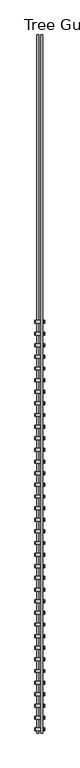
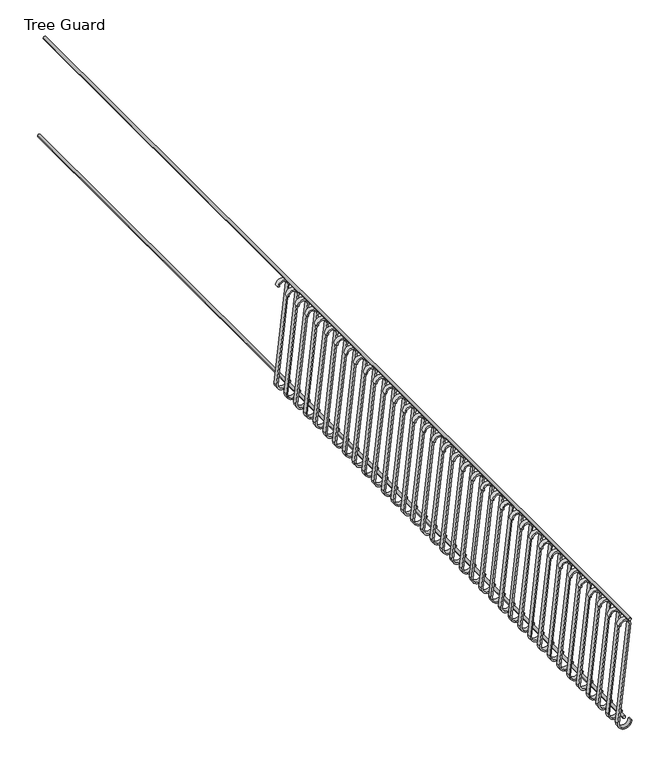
"""IFC4 building model written with IfcOpenShell, lengths in millimetres: railing geometry, Tree Guard."""

from ifc_helpers import new_model, si_unit, point, frame, frame_2d, origin, place, context, project, spatial, polyline, circle_curve, trimmed, segment, composite_curve, outline, extrude, source, transform, mapped, element, save


def tree_guard_ab088758(model_context):
    return source(origin(), model_context, "Body", "SweptSolid", [
        extrude(outline(composite_curve([segment(trimmed(circle_curve(frame_2d((1054.1, 9947.4129835)), 12.7), [point((1054.1, 9960.1129835))], [point((1054.1, 9934.7129835))], False, "CARTESIAN"), True, "CONTINUOUS"), segment(trimmed(circle_curve(frame_2d((1054.1, 9947.4129835)), 12.7), [point((1054.1, 9934.7129835))], [point((1054.1, 9960.1129835))], False, "CARTESIAN"), True, "CONTINUOUS")], self_intersect=False)), frame((0.0, -14489.4143828, 0.0), z_axis=(0.0, 1.0, 0.0), x_axis=(0.0, 0.0, 1.0)), (0.0, 0.0, 1.0), 9144.0),
        extrude(outline(composite_curve([segment(trimmed(circle_curve(frame_2d((139.7, 9896.6129835)), 12.7), [point((139.7, 9909.3129835))], [point((139.7, 9883.9129835))], False, "CARTESIAN"), True, "CONTINUOUS"), segment(trimmed(circle_curve(frame_2d((139.7, 9896.6129835)), 12.7), [point((139.7, 9883.9129835))], [point((139.7, 9909.3129835))], False, "CARTESIAN"), True, "CONTINUOUS")], self_intersect=False)), frame((0.0, -14489.4143828, 0.0), z_axis=(0.0, 1.0, 0.0), x_axis=(0.0, 0.0, 1.0)), (0.0, 0.0, 1.0), 9144.0),
        extrude(outline(composite_curve([segment(trimmed(circle_curve(frame_2d((990.6, 9922.0129835)), 38.1), [point((990.6, 9883.9129835))], [point((991.2441257, 9960.1075383))], True, "CARTESIAN"), True, "CONTINUOUS"), segment(polyline([(991.2441257, 9960.1075383), (64.2323509, 9858.5172068)]), True, "CONTINUOUS"), segment(trimmed(circle_curve(frame_2d((63.5, 9922.0129835)), 63.5), [point((64.2323509, 9858.5172068))], [point((63.5, 9985.5129835))], False, "CARTESIAN"), True, "CONTINUOUS"), segment(polyline([(63.5, 9985.5129835), (63.5, 9972.8129835)]), True, "CONTINUOUS"), segment(trimmed(circle_curve(frame_2d((63.5, 9922.0129835)), 50.8), [point((63.5, 9972.8129835))], [point((63.5, 9871.2129835))], True, "CARTESIAN"), True, "CONTINUOUS"), segment(polyline([(63.5, 9871.2129835), (990.6, 9972.8129835)]), True, "CONTINUOUS"), segment(trimmed(circle_curve(frame_2d((990.6, 9922.0129835)), 50.8), [point((990.6, 9972.8129835))], [point((990.6, 9871.2129835))], False, "CARTESIAN"), True, "CONTINUOUS"), segment(polyline([(990.6, 9871.2129835), (990.6, 9883.9129835)]), True, "CONTINUOUS")], self_intersect=False)), frame((0.0, -14457.6643828, 0.0), z_axis=(0.0, 1.0, 0.0), x_axis=(0.0, 0.0, 1.0)), (0.0, 0.0, 1.0), 38.1),
        extrude(outline(composite_curve([segment(trimmed(circle_curve(frame_2d((990.6, 9922.0129835)), 38.1), [point((990.6, 9883.9129835))], [point((991.2441257, 9960.1075383))], True, "CARTESIAN"), True, "CONTINUOUS"), segment(polyline([(991.2441257, 9960.1075383), (64.2323509, 9858.5172068)]), True, "CONTINUOUS"), segment(trimmed(circle_curve(frame_2d((63.5, 9922.0129835)), 63.5), [point((64.2323509, 9858.5172068))], [point((63.5, 9985.5129835))], False, "CARTESIAN"), True, "CONTINUOUS"), segment(polyline([(63.5, 9985.5129835), (63.5, 9972.8129835)]), True, "CONTINUOUS"), segment(trimmed(circle_curve(frame_2d((63.5, 9922.0129835)), 50.8), [point((63.5, 9972.8129835))], [point((63.5, 9871.2129835))], True, "CARTESIAN"), True, "CONTINUOUS"), segment(polyline([(63.5, 9871.2129835), (990.6, 9972.8129835)]), True, "CONTINUOUS"), segment(trimmed(circle_curve(frame_2d((990.6, 9922.0129835)), 50.8), [point((990.6, 9972.8129835))], [point((990.6, 9871.2129835))], False, "CARTESIAN"), True, "CONTINUOUS"), segment(polyline([(990.6, 9871.2129835), (990.6, 9883.9129835)]), True, "CONTINUOUS")], self_intersect=False)), frame((0.0, -14305.2643828, 0.0), z_axis=(0.0, 1.0, 0.0), x_axis=(0.0, 0.0, 1.0)), (0.0, 0.0, 1.0), 38.1),
        extrude(outline(composite_curve([segment(trimmed(circle_curve(frame_2d((990.6, 9922.0129835)), 38.1), [point((990.6, 9883.9129835))], [point((991.2441257, 9960.1075383))], True, "CARTESIAN"), True, "CONTINUOUS"), segment(polyline([(991.2441257, 9960.1075383), (64.2323509, 9858.5172068)]), True, "CONTINUOUS"), segment(trimmed(circle_curve(frame_2d((63.5, 9922.0129835)), 63.5), [point((64.2323509, 9858.5172068))], [point((63.5, 9985.5129835))], False, "CARTESIAN"), True, "CONTINUOUS"), segment(polyline([(63.5, 9985.5129835), (63.5, 9972.8129835)]), True, "CONTINUOUS"), segment(trimmed(circle_curve(frame_2d((63.5, 9922.0129835)), 50.8), [point((63.5, 9972.8129835))], [point((63.5, 9871.2129835))], True, "CARTESIAN"), True, "CONTINUOUS"), segment(polyline([(63.5, 9871.2129835), (990.6, 9972.8129835)]), True, "CONTINUOUS"), segment(trimmed(circle_curve(frame_2d((990.6, 9922.0129835)), 50.8), [point((990.6, 9972.8129835))], [point((990.6, 9871.2129835))], False, "CARTESIAN"), True, "CONTINUOUS"), segment(polyline([(990.6, 9871.2129835), (990.6, 9883.9129835)]), True, "CONTINUOUS")], self_intersect=False)), frame((0.0, -14152.8643828, 0.0), z_axis=(0.0, 1.0, 0.0), x_axis=(0.0, 0.0, 1.0)), (0.0, 0.0, 1.0), 38.1),
        extrude(outline(composite_curve([segment(trimmed(circle_curve(frame_2d((990.6, 9922.0129835)), 38.1), [point((990.6, 9883.9129835))], [point((991.2441257, 9960.1075383))], True, "CARTESIAN"), True, "CONTINUOUS"), segment(polyline([(991.2441257, 9960.1075383), (64.2323509, 9858.5172068)]), True, "CONTINUOUS"), segment(trimmed(circle_curve(frame_2d((63.5, 9922.0129835)), 63.5), [point((64.2323509, 9858.5172068))], [point((63.5, 9985.5129835))], False, "CARTESIAN"), True, "CONTINUOUS"), segment(polyline([(63.5, 9985.5129835), (63.5, 9972.8129835)]), True, "CONTINUOUS"), segment(trimmed(circle_curve(frame_2d((63.5, 9922.0129835)), 50.8), [point((63.5, 9972.8129835))], [point((63.5, 9871.2129835))], True, "CARTESIAN"), True, "CONTINUOUS"), segment(polyline([(63.5, 9871.2129835), (990.6, 9972.8129835)]), True, "CONTINUOUS"), segment(trimmed(circle_curve(frame_2d((990.6, 9922.0129835)), 50.8), [point((990.6, 9972.8129835))], [point((990.6, 9871.2129835))], False, "CARTESIAN"), True, "CONTINUOUS"), segment(polyline([(990.6, 9871.2129835), (990.6, 9883.9129835)]), True, "CONTINUOUS")], self_intersect=False)), frame((0.0, -14000.4643828, 0.0), z_axis=(0.0, 1.0, 0.0), x_axis=(0.0, 0.0, 1.0)), (0.0, 0.0, 1.0), 38.1),
        extrude(outline(composite_curve([segment(trimmed(circle_curve(frame_2d((990.6, 9922.0129835)), 38.1), [point((990.6, 9883.9129835))], [point((991.2441257, 9960.1075383))], True, "CARTESIAN"), True, "CONTINUOUS"), segment(polyline([(991.2441257, 9960.1075383), (64.2323509, 9858.5172068)]), True, "CONTINUOUS"), segment(trimmed(circle_curve(frame_2d((63.5, 9922.0129835)), 63.5), [point((64.2323509, 9858.5172068))], [point((63.5, 9985.5129835))], False, "CARTESIAN"), True, "CONTINUOUS"), segment(polyline([(63.5, 9985.5129835), (63.5, 9972.8129835)]), True, "CONTINUOUS"), segment(trimmed(circle_curve(frame_2d((63.5, 9922.0129835)), 50.8), [point((63.5, 9972.8129835))], [point((63.5, 9871.2129835))], True, "CARTESIAN"), True, "CONTINUOUS"), segment(polyline([(63.5, 9871.2129835), (990.6, 9972.8129835)]), True, "CONTINUOUS"), segment(trimmed(circle_curve(frame_2d((990.6, 9922.0129835)), 50.8), [point((990.6, 9972.8129835))], [point((990.6, 9871.2129835))], False, "CARTESIAN"), True, "CONTINUOUS"), segment(polyline([(990.6, 9871.2129835), (990.6, 9883.9129835)]), True, "CONTINUOUS")], self_intersect=False)), frame((0.0, -13848.0643828, 0.0), z_axis=(0.0, 1.0, 0.0), x_axis=(0.0, 0.0, 1.0)), (0.0, 0.0, 1.0), 38.1),
        extrude(outline(composite_curve([segment(trimmed(circle_curve(frame_2d((990.6, 9922.0129835)), 38.1), [point((990.6, 9883.9129835))], [point((991.2441257, 9960.1075383))], True, "CARTESIAN"), True, "CONTINUOUS"), segment(polyline([(991.2441257, 9960.1075383), (64.2323509, 9858.5172068)]), True, "CONTINUOUS"), segment(trimmed(circle_curve(frame_2d((63.5, 9922.0129835)), 63.5), [point((64.2323509, 9858.5172068))], [point((63.5, 9985.5129835))], False, "CARTESIAN"), True, "CONTINUOUS"), segment(polyline([(63.5, 9985.5129835), (63.5, 9972.8129835)]), True, "CONTINUOUS"), segment(trimmed(circle_curve(frame_2d((63.5, 9922.0129835)), 50.8), [point((63.5, 9972.8129835))], [point((63.5, 9871.2129835))], True, "CARTESIAN"), True, "CONTINUOUS"), segment(polyline([(63.5, 9871.2129835), (990.6, 9972.8129835)]), True, "CONTINUOUS"), segment(trimmed(circle_curve(frame_2d((990.6, 9922.0129835)), 50.8), [point((990.6, 9972.8129835))], [point((990.6, 9871.2129835))], False, "CARTESIAN"), True, "CONTINUOUS"), segment(polyline([(990.6, 9871.2129835), (990.6, 9883.9129835)]), True, "CONTINUOUS")], self_intersect=False)), frame((0.0, -13695.6643828, 0.0), z_axis=(0.0, 1.0, 0.0), x_axis=(0.0, 0.0, 1.0)), (0.0, 0.0, 1.0), 38.1),
        extrude(outline(composite_curve([segment(trimmed(circle_curve(frame_2d((990.6, 9922.0129835)), 38.1), [point((990.6, 9883.9129835))], [point((991.2441257, 9960.1075383))], True, "CARTESIAN"), True, "CONTINUOUS"), segment(polyline([(991.2441257, 9960.1075383), (64.2323509, 9858.5172068)]), True, "CONTINUOUS"), segment(trimmed(circle_curve(frame_2d((63.5, 9922.0129835)), 63.5), [point((64.2323509, 9858.5172068))], [point((63.5, 9985.5129835))], False, "CARTESIAN"), True, "CONTINUOUS"), segment(polyline([(63.5, 9985.5129835), (63.5, 9972.8129835)]), True, "CONTINUOUS"), segment(trimmed(circle_curve(frame_2d((63.5, 9922.0129835)), 50.8), [point((63.5, 9972.8129835))], [point((63.5, 9871.2129835))], True, "CARTESIAN"), True, "CONTINUOUS"), segment(polyline([(63.5, 9871.2129835), (990.6, 9972.8129835)]), True, "CONTINUOUS"), segment(trimmed(circle_curve(frame_2d((990.6, 9922.0129835)), 50.8), [point((990.6, 9972.8129835))], [point((990.6, 9871.2129835))], False, "CARTESIAN"), True, "CONTINUOUS"), segment(polyline([(990.6, 9871.2129835), (990.6, 9883.9129835)]), True, "CONTINUOUS")], self_intersect=False)), frame((0.0, -13543.2643828, 0.0), z_axis=(0.0, 1.0, 0.0), x_axis=(0.0, 0.0, 1.0)), (0.0, 0.0, 1.0), 38.1),
        extrude(outline(composite_curve([segment(trimmed(circle_curve(frame_2d((990.6, 9922.0129835)), 38.1), [point((990.6, 9883.9129835))], [point((991.2441257, 9960.1075383))], True, "CARTESIAN"), True, "CONTINUOUS"), segment(polyline([(991.2441257, 9960.1075383), (64.2323509, 9858.5172068)]), True, "CONTINUOUS"), segment(trimmed(circle_curve(frame_2d((63.5, 9922.0129835)), 63.5), [point((64.2323509, 9858.5172068))], [point((63.5, 9985.5129835))], False, "CARTESIAN"), True, "CONTINUOUS"), segment(polyline([(63.5, 9985.5129835), (63.5, 9972.8129835)]), True, "CONTINUOUS"), segment(trimmed(circle_curve(frame_2d((63.5, 9922.0129835)), 50.8), [point((63.5, 9972.8129835))], [point((63.5, 9871.2129835))], True, "CARTESIAN"), True, "CONTINUOUS"), segment(polyline([(63.5, 9871.2129835), (990.6, 9972.8129835)]), True, "CONTINUOUS"), segment(trimmed(circle_curve(frame_2d((990.6, 9922.0129835)), 50.8), [point((990.6, 9972.8129835))], [point((990.6, 9871.2129835))], False, "CARTESIAN"), True, "CONTINUOUS"), segment(polyline([(990.6, 9871.2129835), (990.6, 9883.9129835)]), True, "CONTINUOUS")], self_intersect=False)), frame((0.0, -13390.8643828, 0.0), z_axis=(0.0, 1.0, 0.0), x_axis=(0.0, 0.0, 1.0)), (0.0, 0.0, 1.0), 38.1),
        extrude(outline(composite_curve([segment(trimmed(circle_curve(frame_2d((990.6, 9922.0129835)), 38.1), [point((990.6, 9883.9129835))], [point((991.2441257, 9960.1075383))], True, "CARTESIAN"), True, "CONTINUOUS"), segment(polyline([(991.2441257, 9960.1075383), (64.2323509, 9858.5172068)]), True, "CONTINUOUS"), segment(trimmed(circle_curve(frame_2d((63.5, 9922.0129835)), 63.5), [point((64.2323509, 9858.5172068))], [point((63.5, 9985.5129835))], False, "CARTESIAN"), True, "CONTINUOUS"), segment(polyline([(63.5, 9985.5129835), (63.5, 9972.8129835)]), True, "CONTINUOUS"), segment(trimmed(circle_curve(frame_2d((63.5, 9922.0129835)), 50.8), [point((63.5, 9972.8129835))], [point((63.5, 9871.2129835))], True, "CARTESIAN"), True, "CONTINUOUS"), segment(polyline([(63.5, 9871.2129835), (990.6, 9972.8129835)]), True, "CONTINUOUS"), segment(trimmed(circle_curve(frame_2d((990.6, 9922.0129835)), 50.8), [point((990.6, 9972.8129835))], [point((990.6, 9871.2129835))], False, "CARTESIAN"), True, "CONTINUOUS"), segment(polyline([(990.6, 9871.2129835), (990.6, 9883.9129835)]), True, "CONTINUOUS")], self_intersect=False)), frame((0.0, -13238.4643828, 0.0), z_axis=(0.0, 1.0, 0.0), x_axis=(0.0, 0.0, 1.0)), (0.0, 0.0, 1.0), 38.1),
        extrude(outline(composite_curve([segment(trimmed(circle_curve(frame_2d((990.6, 9922.0129835)), 38.1), [point((990.6, 9883.9129835))], [point((991.2441257, 9960.1075383))], True, "CARTESIAN"), True, "CONTINUOUS"), segment(polyline([(991.2441257, 9960.1075383), (64.2323509, 9858.5172068)]), True, "CONTINUOUS"), segment(trimmed(circle_curve(frame_2d((63.5, 9922.0129835)), 63.5), [point((64.2323509, 9858.5172068))], [point((63.5, 9985.5129835))], False, "CARTESIAN"), True, "CONTINUOUS"), segment(polyline([(63.5, 9985.5129835), (63.5, 9972.8129835)]), True, "CONTINUOUS"), segment(trimmed(circle_curve(frame_2d((63.5, 9922.0129835)), 50.8), [point((63.5, 9972.8129835))], [point((63.5, 9871.2129835))], True, "CARTESIAN"), True, "CONTINUOUS"), segment(polyline([(63.5, 9871.2129835), (990.6, 9972.8129835)]), True, "CONTINUOUS"), segment(trimmed(circle_curve(frame_2d((990.6, 9922.0129835)), 50.8), [point((990.6, 9972.8129835))], [point((990.6, 9871.2129835))], False, "CARTESIAN"), True, "CONTINUOUS"), segment(polyline([(990.6, 9871.2129835), (990.6, 9883.9129835)]), True, "CONTINUOUS")], self_intersect=False)), frame((0.0, -13086.0643828, 0.0), z_axis=(0.0, 1.0, 0.0), x_axis=(0.0, 0.0, 1.0)), (0.0, 0.0, 1.0), 38.1),
        extrude(outline(composite_curve([segment(trimmed(circle_curve(frame_2d((990.6, 9922.0129835)), 38.1), [point((990.6, 9883.9129835))], [point((991.2441257, 9960.1075383))], True, "CARTESIAN"), True, "CONTINUOUS"), segment(polyline([(991.2441257, 9960.1075383), (64.2323509, 9858.5172068)]), True, "CONTINUOUS"), segment(trimmed(circle_curve(frame_2d((63.5, 9922.0129835)), 63.5), [point((64.2323509, 9858.5172068))], [point((63.5, 9985.5129835))], False, "CARTESIAN"), True, "CONTINUOUS"), segment(polyline([(63.5, 9985.5129835), (63.5, 9972.8129835)]), True, "CONTINUOUS"), segment(trimmed(circle_curve(frame_2d((63.5, 9922.0129835)), 50.8), [point((63.5, 9972.8129835))], [point((63.5, 9871.2129835))], True, "CARTESIAN"), True, "CONTINUOUS"), segment(polyline([(63.5, 9871.2129835), (990.6, 9972.8129835)]), True, "CONTINUOUS"), segment(trimmed(circle_curve(frame_2d((990.6, 9922.0129835)), 50.8), [point((990.6, 9972.8129835))], [point((990.6, 9871.2129835))], False, "CARTESIAN"), True, "CONTINUOUS"), segment(polyline([(990.6, 9871.2129835), (990.6, 9883.9129835)]), True, "CONTINUOUS")], self_intersect=False)), frame((0.0, -12933.6643828, 0.0), z_axis=(0.0, 1.0, 0.0), x_axis=(0.0, 0.0, 1.0)), (0.0, 0.0, 1.0), 38.1),
        extrude(outline(composite_curve([segment(trimmed(circle_curve(frame_2d((990.6, 9922.0129835)), 38.1), [point((990.6, 9883.9129835))], [point((991.2441257, 9960.1075383))], True, "CARTESIAN"), True, "CONTINUOUS"), segment(polyline([(991.2441257, 9960.1075383), (64.2323509, 9858.5172068)]), True, "CONTINUOUS"), segment(trimmed(circle_curve(frame_2d((63.5, 9922.0129835)), 63.5), [point((64.2323509, 9858.5172068))], [point((63.5, 9985.5129835))], False, "CARTESIAN"), True, "CONTINUOUS"), segment(polyline([(63.5, 9985.5129835), (63.5, 9972.8129835)]), True, "CONTINUOUS"), segment(trimmed(circle_curve(frame_2d((63.5, 9922.0129835)), 50.8), [point((63.5, 9972.8129835))], [point((63.5, 9871.2129835))], True, "CARTESIAN"), True, "CONTINUOUS"), segment(polyline([(63.5, 9871.2129835), (990.6, 9972.8129835)]), True, "CONTINUOUS"), segment(trimmed(circle_curve(frame_2d((990.6, 9922.0129835)), 50.8), [point((990.6, 9972.8129835))], [point((990.6, 9871.2129835))], False, "CARTESIAN"), True, "CONTINUOUS"), segment(polyline([(990.6, 9871.2129835), (990.6, 9883.9129835)]), True, "CONTINUOUS")], self_intersect=False)), frame((0.0, -12781.2643828, 0.0), z_axis=(0.0, 1.0, 0.0), x_axis=(0.0, 0.0, 1.0)), (0.0, 0.0, 1.0), 38.1),
        extrude(outline(composite_curve([segment(trimmed(circle_curve(frame_2d((990.6, 9922.0129835)), 38.1), [point((990.6, 9883.9129835))], [point((991.2441257, 9960.1075383))], True, "CARTESIAN"), True, "CONTINUOUS"), segment(polyline([(991.2441257, 9960.1075383), (64.2323509, 9858.5172068)]), True, "CONTINUOUS"), segment(trimmed(circle_curve(frame_2d((63.5, 9922.0129835)), 63.5), [point((64.2323509, 9858.5172068))], [point((63.5, 9985.5129835))], False, "CARTESIAN"), True, "CONTINUOUS"), segment(polyline([(63.5, 9985.5129835), (63.5, 9972.8129835)]), True, "CONTINUOUS"), segment(trimmed(circle_curve(frame_2d((63.5, 9922.0129835)), 50.8), [point((63.5, 9972.8129835))], [point((63.5, 9871.2129835))], True, "CARTESIAN"), True, "CONTINUOUS"), segment(polyline([(63.5, 9871.2129835), (990.6, 9972.8129835)]), True, "CONTINUOUS"), segment(trimmed(circle_curve(frame_2d((990.6, 9922.0129835)), 50.8), [point((990.6, 9972.8129835))], [point((990.6, 9871.2129835))], False, "CARTESIAN"), True, "CONTINUOUS"), segment(polyline([(990.6, 9871.2129835), (990.6, 9883.9129835)]), True, "CONTINUOUS")], self_intersect=False)), frame((0.0, -12628.8643828, 0.0), z_axis=(0.0, 1.0, 0.0), x_axis=(0.0, 0.0, 1.0)), (0.0, 0.0, 1.0), 38.1),
        extrude(outline(composite_curve([segment(trimmed(circle_curve(frame_2d((990.6, 9922.0129835)), 38.1), [point((990.6, 9883.9129835))], [point((991.2441257, 9960.1075383))], True, "CARTESIAN"), True, "CONTINUOUS"), segment(polyline([(991.2441257, 9960.1075383), (64.2323509, 9858.5172068)]), True, "CONTINUOUS"), segment(trimmed(circle_curve(frame_2d((63.5, 9922.0129835)), 63.5), [point((64.2323509, 9858.5172068))], [point((63.5, 9985.5129835))], False, "CARTESIAN"), True, "CONTINUOUS"), segment(polyline([(63.5, 9985.5129835), (63.5, 9972.8129835)]), True, "CONTINUOUS"), segment(trimmed(circle_curve(frame_2d((63.5, 9922.0129835)), 50.8), [point((63.5, 9972.8129835))], [point((63.5, 9871.2129835))], True, "CARTESIAN"), True, "CONTINUOUS"), segment(polyline([(63.5, 9871.2129835), (990.6, 9972.8129835)]), True, "CONTINUOUS"), segment(trimmed(circle_curve(frame_2d((990.6, 9922.0129835)), 50.8), [point((990.6, 9972.8129835))], [point((990.6, 9871.2129835))], False, "CARTESIAN"), True, "CONTINUOUS"), segment(polyline([(990.6, 9871.2129835), (990.6, 9883.9129835)]), True, "CONTINUOUS")], self_intersect=False)), frame((0.0, -12476.4643828, 0.0), z_axis=(0.0, 1.0, 0.0), x_axis=(0.0, 0.0, 1.0)), (0.0, 0.0, 1.0), 38.1),
        extrude(outline(composite_curve([segment(trimmed(circle_curve(frame_2d((990.6, 9922.0129835)), 38.1), [point((990.6, 9883.9129835))], [point((991.2441257, 9960.1075383))], True, "CARTESIAN"), True, "CONTINUOUS"), segment(polyline([(991.2441257, 9960.1075383), (64.2323509, 9858.5172068)]), True, "CONTINUOUS"), segment(trimmed(circle_curve(frame_2d((63.5, 9922.0129835)), 63.5), [point((64.2323509, 9858.5172068))], [point((63.5, 9985.5129835))], False, "CARTESIAN"), True, "CONTINUOUS"), segment(polyline([(63.5, 9985.5129835), (63.5, 9972.8129835)]), True, "CONTINUOUS"), segment(trimmed(circle_curve(frame_2d((63.5, 9922.0129835)), 50.8), [point((63.5, 9972.8129835))], [point((63.5, 9871.2129835))], True, "CARTESIAN"), True, "CONTINUOUS"), segment(polyline([(63.5, 9871.2129835), (990.6, 9972.8129835)]), True, "CONTINUOUS"), segment(trimmed(circle_curve(frame_2d((990.6, 9922.0129835)), 50.8), [point((990.6, 9972.8129835))], [point((990.6, 9871.2129835))], False, "CARTESIAN"), True, "CONTINUOUS"), segment(polyline([(990.6, 9871.2129835), (990.6, 9883.9129835)]), True, "CONTINUOUS")], self_intersect=False)), frame((0.0, -12324.0643828, 0.0), z_axis=(0.0, 1.0, 0.0), x_axis=(0.0, 0.0, 1.0)), (0.0, 0.0, 1.0), 38.1),
        extrude(outline(composite_curve([segment(trimmed(circle_curve(frame_2d((990.6, 9922.0129835)), 38.1), [point((990.6, 9883.9129835))], [point((991.2441257, 9960.1075383))], True, "CARTESIAN"), True, "CONTINUOUS"), segment(polyline([(991.2441257, 9960.1075383), (64.2323509, 9858.5172068)]), True, "CONTINUOUS"), segment(trimmed(circle_curve(frame_2d((63.5, 9922.0129835)), 63.5), [point((64.2323509, 9858.5172068))], [point((63.5, 9985.5129835))], False, "CARTESIAN"), True, "CONTINUOUS"), segment(polyline([(63.5, 9985.5129835), (63.5, 9972.8129835)]), True, "CONTINUOUS"), segment(trimmed(circle_curve(frame_2d((63.5, 9922.0129835)), 50.8), [point((63.5, 9972.8129835))], [point((63.5, 9871.2129835))], True, "CARTESIAN"), True, "CONTINUOUS"), segment(polyline([(63.5, 9871.2129835), (990.6, 9972.8129835)]), True, "CONTINUOUS"), segment(trimmed(circle_curve(frame_2d((990.6, 9922.0129835)), 50.8), [point((990.6, 9972.8129835))], [point((990.6, 9871.2129835))], False, "CARTESIAN"), True, "CONTINUOUS"), segment(polyline([(990.6, 9871.2129835), (990.6, 9883.9129835)]), True, "CONTINUOUS")], self_intersect=False)), frame((0.0, -12171.6643828, 0.0), z_axis=(0.0, 1.0, 0.0), x_axis=(0.0, 0.0, 1.0)), (0.0, 0.0, 1.0), 38.1),
        extrude(outline(composite_curve([segment(trimmed(circle_curve(frame_2d((990.6, 9922.0129835)), 38.1), [point((990.6, 9883.9129835))], [point((991.2441257, 9960.1075383))], True, "CARTESIAN"), True, "CONTINUOUS"), segment(polyline([(991.2441257, 9960.1075383), (64.2323509, 9858.5172068)]), True, "CONTINUOUS"), segment(trimmed(circle_curve(frame_2d((63.5, 9922.0129835)), 63.5), [point((64.2323509, 9858.5172068))], [point((63.5, 9985.5129835))], False, "CARTESIAN"), True, "CONTINUOUS"), segment(polyline([(63.5, 9985.5129835), (63.5, 9972.8129835)]), True, "CONTINUOUS"), segment(trimmed(circle_curve(frame_2d((63.5, 9922.0129835)), 50.8), [point((63.5, 9972.8129835))], [point((63.5, 9871.2129835))], True, "CARTESIAN"), True, "CONTINUOUS"), segment(polyline([(63.5, 9871.2129835), (990.6, 9972.8129835)]), True, "CONTINUOUS"), segment(trimmed(circle_curve(frame_2d((990.6, 9922.0129835)), 50.8), [point((990.6, 9972.8129835))], [point((990.6, 9871.2129835))], False, "CARTESIAN"), True, "CONTINUOUS"), segment(polyline([(990.6, 9871.2129835), (990.6, 9883.9129835)]), True, "CONTINUOUS")], self_intersect=False)), frame((0.0, -12019.2643828, 0.0), z_axis=(0.0, 1.0, 0.0), x_axis=(0.0, 0.0, 1.0)), (0.0, 0.0, 1.0), 38.1),
        extrude(outline(composite_curve([segment(trimmed(circle_curve(frame_2d((990.6, 9922.0129835)), 38.1), [point((990.6, 9883.9129835))], [point((991.2441257, 9960.1075383))], True, "CARTESIAN"), True, "CONTINUOUS"), segment(polyline([(991.2441257, 9960.1075383), (64.2323509, 9858.5172068)]), True, "CONTINUOUS"), segment(trimmed(circle_curve(frame_2d((63.5, 9922.0129835)), 63.5), [point((64.2323509, 9858.5172068))], [point((63.5, 9985.5129835))], False, "CARTESIAN"), True, "CONTINUOUS"), segment(polyline([(63.5, 9985.5129835), (63.5, 9972.8129835)]), True, "CONTINUOUS"), segment(trimmed(circle_curve(frame_2d((63.5, 9922.0129835)), 50.8), [point((63.5, 9972.8129835))], [point((63.5, 9871.2129835))], True, "CARTESIAN"), True, "CONTINUOUS"), segment(polyline([(63.5, 9871.2129835), (990.6, 9972.8129835)]), True, "CONTINUOUS"), segment(trimmed(circle_curve(frame_2d((990.6, 9922.0129835)), 50.8), [point((990.6, 9972.8129835))], [point((990.6, 9871.2129835))], False, "CARTESIAN"), True, "CONTINUOUS"), segment(polyline([(990.6, 9871.2129835), (990.6, 9883.9129835)]), True, "CONTINUOUS")], self_intersect=False)), frame((0.0, -11866.8643828, 0.0), z_axis=(0.0, 1.0, 0.0), x_axis=(0.0, 0.0, 1.0)), (0.0, 0.0, 1.0), 38.1),
        extrude(outline(composite_curve([segment(trimmed(circle_curve(frame_2d((990.6, 9922.0129835)), 38.1), [point((990.6, 9883.9129835))], [point((991.2441257, 9960.1075383))], True, "CARTESIAN"), True, "CONTINUOUS"), segment(polyline([(991.2441257, 9960.1075383), (64.2323509, 9858.5172068)]), True, "CONTINUOUS"), segment(trimmed(circle_curve(frame_2d((63.5, 9922.0129835)), 63.5), [point((64.2323509, 9858.5172068))], [point((63.5, 9985.5129835))], False, "CARTESIAN"), True, "CONTINUOUS"), segment(polyline([(63.5, 9985.5129835), (63.5, 9972.8129835)]), True, "CONTINUOUS"), segment(trimmed(circle_curve(frame_2d((63.5, 9922.0129835)), 50.8), [point((63.5, 9972.8129835))], [point((63.5, 9871.2129835))], True, "CARTESIAN"), True, "CONTINUOUS"), segment(polyline([(63.5, 9871.2129835), (990.6, 9972.8129835)]), True, "CONTINUOUS"), segment(trimmed(circle_curve(frame_2d((990.6, 9922.0129835)), 50.8), [point((990.6, 9972.8129835))], [point((990.6, 9871.2129835))], False, "CARTESIAN"), True, "CONTINUOUS"), segment(polyline([(990.6, 9871.2129835), (990.6, 9883.9129835)]), True, "CONTINUOUS")], self_intersect=False)), frame((0.0, -11714.4643828, 0.0), z_axis=(0.0, 1.0, 0.0), x_axis=(0.0, 0.0, 1.0)), (0.0, 0.0, 1.0), 38.1),
        extrude(outline(composite_curve([segment(trimmed(circle_curve(frame_2d((990.6, 9922.0129835)), 38.1), [point((990.6, 9883.9129835))], [point((991.2441257, 9960.1075383))], True, "CARTESIAN"), True, "CONTINUOUS"), segment(polyline([(991.2441257, 9960.1075383), (64.2323509, 9858.5172068)]), True, "CONTINUOUS"), segment(trimmed(circle_curve(frame_2d((63.5, 9922.0129835)), 63.5), [point((64.2323509, 9858.5172068))], [point((63.5, 9985.5129835))], False, "CARTESIAN"), True, "CONTINUOUS"), segment(polyline([(63.5, 9985.5129835), (63.5, 9972.8129835)]), True, "CONTINUOUS"), segment(trimmed(circle_curve(frame_2d((63.5, 9922.0129835)), 50.8), [point((63.5, 9972.8129835))], [point((63.5, 9871.2129835))], True, "CARTESIAN"), True, "CONTINUOUS"), segment(polyline([(63.5, 9871.2129835), (990.6, 9972.8129835)]), True, "CONTINUOUS"), segment(trimmed(circle_curve(frame_2d((990.6, 9922.0129835)), 50.8), [point((990.6, 9972.8129835))], [point((990.6, 9871.2129835))], False, "CARTESIAN"), True, "CONTINUOUS"), segment(polyline([(990.6, 9871.2129835), (990.6, 9883.9129835)]), True, "CONTINUOUS")], self_intersect=False)), frame((0.0, -11562.0643828, 0.0), z_axis=(0.0, 1.0, 0.0), x_axis=(0.0, 0.0, 1.0)), (0.0, 0.0, 1.0), 38.1),
        extrude(outline(composite_curve([segment(trimmed(circle_curve(frame_2d((990.6, 9922.0129835)), 38.1), [point((990.6, 9883.9129835))], [point((991.2441257, 9960.1075383))], True, "CARTESIAN"), True, "CONTINUOUS"), segment(polyline([(991.2441257, 9960.1075383), (64.2323509, 9858.5172068)]), True, "CONTINUOUS"), segment(trimmed(circle_curve(frame_2d((63.5, 9922.0129835)), 63.5), [point((64.2323509, 9858.5172068))], [point((63.5, 9985.5129835))], False, "CARTESIAN"), True, "CONTINUOUS"), segment(polyline([(63.5, 9985.5129835), (63.5, 9972.8129835)]), True, "CONTINUOUS"), segment(trimmed(circle_curve(frame_2d((63.5, 9922.0129835)), 50.8), [point((63.5, 9972.8129835))], [point((63.5, 9871.2129835))], True, "CARTESIAN"), True, "CONTINUOUS"), segment(polyline([(63.5, 9871.2129835), (990.6, 9972.8129835)]), True, "CONTINUOUS"), segment(trimmed(circle_curve(frame_2d((990.6, 9922.0129835)), 50.8), [point((990.6, 9972.8129835))], [point((990.6, 9871.2129835))], False, "CARTESIAN"), True, "CONTINUOUS"), segment(polyline([(990.6, 9871.2129835), (990.6, 9883.9129835)]), True, "CONTINUOUS")], self_intersect=False)), frame((0.0, -11409.6643828, 0.0), z_axis=(0.0, 1.0, 0.0), x_axis=(0.0, 0.0, 1.0)), (0.0, 0.0, 1.0), 38.1),
        extrude(outline(composite_curve([segment(trimmed(circle_curve(frame_2d((990.6, 9922.0129835)), 38.1), [point((990.6, 9883.9129835))], [point((991.2441257, 9960.1075383))], True, "CARTESIAN"), True, "CONTINUOUS"), segment(polyline([(991.2441257, 9960.1075383), (64.2323509, 9858.5172068)]), True, "CONTINUOUS"), segment(trimmed(circle_curve(frame_2d((63.5, 9922.0129835)), 63.5), [point((64.2323509, 9858.5172068))], [point((63.5, 9985.5129835))], False, "CARTESIAN"), True, "CONTINUOUS"), segment(polyline([(63.5, 9985.5129835), (63.5, 9972.8129835)]), True, "CONTINUOUS"), segment(trimmed(circle_curve(frame_2d((63.5, 9922.0129835)), 50.8), [point((63.5, 9972.8129835))], [point((63.5, 9871.2129835))], True, "CARTESIAN"), True, "CONTINUOUS"), segment(polyline([(63.5, 9871.2129835), (990.6, 9972.8129835)]), True, "CONTINUOUS"), segment(trimmed(circle_curve(frame_2d((990.6, 9922.0129835)), 50.8), [point((990.6, 9972.8129835))], [point((990.6, 9871.2129835))], False, "CARTESIAN"), True, "CONTINUOUS"), segment(polyline([(990.6, 9871.2129835), (990.6, 9883.9129835)]), True, "CONTINUOUS")], self_intersect=False)), frame((0.0, -11257.2643828, 0.0), z_axis=(0.0, 1.0, 0.0), x_axis=(0.0, 0.0, 1.0)), (0.0, 0.0, 1.0), 38.1),
        extrude(outline(composite_curve([segment(trimmed(circle_curve(frame_2d((990.6, 9922.0129835)), 38.1), [point((990.6, 9883.9129835))], [point((991.2441257, 9960.1075383))], True, "CARTESIAN"), True, "CONTINUOUS"), segment(polyline([(991.2441257, 9960.1075383), (64.2323509, 9858.5172068)]), True, "CONTINUOUS"), segment(trimmed(circle_curve(frame_2d((63.5, 9922.0129835)), 63.5), [point((64.2323509, 9858.5172068))], [point((63.5, 9985.5129835))], False, "CARTESIAN"), True, "CONTINUOUS"), segment(polyline([(63.5, 9985.5129835), (63.5, 9972.8129835)]), True, "CONTINUOUS"), segment(trimmed(circle_curve(frame_2d((63.5, 9922.0129835)), 50.8), [point((63.5, 9972.8129835))], [point((63.5, 9871.2129835))], True, "CARTESIAN"), True, "CONTINUOUS"), segment(polyline([(63.5, 9871.2129835), (990.6, 9972.8129835)]), True, "CONTINUOUS"), segment(trimmed(circle_curve(frame_2d((990.6, 9922.0129835)), 50.8), [point((990.6, 9972.8129835))], [point((990.6, 9871.2129835))], False, "CARTESIAN"), True, "CONTINUOUS"), segment(polyline([(990.6, 9871.2129835), (990.6, 9883.9129835)]), True, "CONTINUOUS")], self_intersect=False)), frame((0.0, -11104.8643828, 0.0), z_axis=(0.0, 1.0, 0.0), x_axis=(0.0, 0.0, 1.0)), (0.0, 0.0, 1.0), 38.1),
        extrude(outline(composite_curve([segment(trimmed(circle_curve(frame_2d((990.6, 9922.0129835)), 38.1), [point((990.6, 9883.9129835))], [point((991.2441257, 9960.1075383))], True, "CARTESIAN"), True, "CONTINUOUS"), segment(polyline([(991.2441257, 9960.1075383), (64.2323509, 9858.5172068)]), True, "CONTINUOUS"), segment(trimmed(circle_curve(frame_2d((63.5, 9922.0129835)), 63.5), [point((64.2323509, 9858.5172068))], [point((63.5, 9985.5129835))], False, "CARTESIAN"), True, "CONTINUOUS"), segment(polyline([(63.5, 9985.5129835), (63.5, 9972.8129835)]), True, "CONTINUOUS"), segment(trimmed(circle_curve(frame_2d((63.5, 9922.0129835)), 50.8), [point((63.5, 9972.8129835))], [point((63.5, 9871.2129835))], True, "CARTESIAN"), True, "CONTINUOUS"), segment(polyline([(63.5, 9871.2129835), (990.6, 9972.8129835)]), True, "CONTINUOUS"), segment(trimmed(circle_curve(frame_2d((990.6, 9922.0129835)), 50.8), [point((990.6, 9972.8129835))], [point((990.6, 9871.2129835))], False, "CARTESIAN"), True, "CONTINUOUS"), segment(polyline([(990.6, 9871.2129835), (990.6, 9883.9129835)]), True, "CONTINUOUS")], self_intersect=False)), frame((0.0, -10952.4643828, 0.0), z_axis=(0.0, 1.0, 0.0), x_axis=(0.0, 0.0, 1.0)), (0.0, 0.0, 1.0), 38.1),
        extrude(outline(composite_curve([segment(trimmed(circle_curve(frame_2d((990.6, 9922.0129835)), 38.1), [point((990.6, 9883.9129835))], [point((991.2441257, 9960.1075383))], True, "CARTESIAN"), True, "CONTINUOUS"), segment(polyline([(991.2441257, 9960.1075383), (64.2323509, 9858.5172068)]), True, "CONTINUOUS"), segment(trimmed(circle_curve(frame_2d((63.5, 9922.0129835)), 63.5), [point((64.2323509, 9858.5172068))], [point((63.5, 9985.5129835))], False, "CARTESIAN"), True, "CONTINUOUS"), segment(polyline([(63.5, 9985.5129835), (63.5, 9972.8129835)]), True, "CONTINUOUS"), segment(trimmed(circle_curve(frame_2d((63.5, 9922.0129835)), 50.8), [point((63.5, 9972.8129835))], [point((63.5, 9871.2129835))], True, "CARTESIAN"), True, "CONTINUOUS"), segment(polyline([(63.5, 9871.2129835), (990.6, 9972.8129835)]), True, "CONTINUOUS"), segment(trimmed(circle_curve(frame_2d((990.6, 9922.0129835)), 50.8), [point((990.6, 9972.8129835))], [point((990.6, 9871.2129835))], False, "CARTESIAN"), True, "CONTINUOUS"), segment(polyline([(990.6, 9871.2129835), (990.6, 9883.9129835)]), True, "CONTINUOUS")], self_intersect=False)), frame((0.0, -10800.0643828, 0.0), z_axis=(0.0, 1.0, 0.0), x_axis=(0.0, 0.0, 1.0)), (0.0, 0.0, 1.0), 38.1),
        extrude(outline(composite_curve([segment(trimmed(circle_curve(frame_2d((990.6, 9922.0129835)), 38.1), [point((990.6, 9883.9129835))], [point((991.2441257, 9960.1075383))], True, "CARTESIAN"), True, "CONTINUOUS"), segment(polyline([(991.2441257, 9960.1075383), (64.2323509, 9858.5172068)]), True, "CONTINUOUS"), segment(trimmed(circle_curve(frame_2d((63.5, 9922.0129835)), 63.5), [point((64.2323509, 9858.5172068))], [point((63.5, 9985.5129835))], False, "CARTESIAN"), True, "CONTINUOUS"), segment(polyline([(63.5, 9985.5129835), (63.5, 9972.8129835)]), True, "CONTINUOUS"), segment(trimmed(circle_curve(frame_2d((63.5, 9922.0129835)), 50.8), [point((63.5, 9972.8129835))], [point((63.5, 9871.2129835))], True, "CARTESIAN"), True, "CONTINUOUS"), segment(polyline([(63.5, 9871.2129835), (990.6, 9972.8129835)]), True, "CONTINUOUS"), segment(trimmed(circle_curve(frame_2d((990.6, 9922.0129835)), 50.8), [point((990.6, 9972.8129835))], [point((990.6, 9871.2129835))], False, "CARTESIAN"), True, "CONTINUOUS"), segment(polyline([(990.6, 9871.2129835), (990.6, 9883.9129835)]), True, "CONTINUOUS")], self_intersect=False)), frame((0.0, -10647.6643828, 0.0), z_axis=(0.0, 1.0, 0.0), x_axis=(0.0, 0.0, 1.0)), (0.0, 0.0, 1.0), 38.1),
        extrude(outline(composite_curve([segment(trimmed(circle_curve(frame_2d((990.6, 9922.0129835)), 38.1), [point((990.6, 9883.9129835))], [point((991.2441257, 9960.1075383))], True, "CARTESIAN"), True, "CONTINUOUS"), segment(polyline([(991.2441257, 9960.1075383), (64.2323509, 9858.5172068)]), True, "CONTINUOUS"), segment(trimmed(circle_curve(frame_2d((63.5, 9922.0129835)), 63.5), [point((64.2323509, 9858.5172068))], [point((63.5, 9985.5129835))], False, "CARTESIAN"), True, "CONTINUOUS"), segment(polyline([(63.5, 9985.5129835), (63.5, 9972.8129835)]), True, "CONTINUOUS"), segment(trimmed(circle_curve(frame_2d((63.5, 9922.0129835)), 50.8), [point((63.5, 9972.8129835))], [point((63.5, 9871.2129835))], True, "CARTESIAN"), True, "CONTINUOUS"), segment(polyline([(63.5, 9871.2129835), (990.6, 9972.8129835)]), True, "CONTINUOUS"), segment(trimmed(circle_curve(frame_2d((990.6, 9922.0129835)), 50.8), [point((990.6, 9972.8129835))], [point((990.6, 9871.2129835))], False, "CARTESIAN"), True, "CONTINUOUS"), segment(polyline([(990.6, 9871.2129835), (990.6, 9883.9129835)]), True, "CONTINUOUS")], self_intersect=False)), frame((0.0, -10495.2643828, 0.0), z_axis=(0.0, 1.0, 0.0), x_axis=(0.0, 0.0, 1.0)), (0.0, 0.0, 1.0), 38.1),
        extrude(outline(composite_curve([segment(trimmed(circle_curve(frame_2d((990.6, 9922.0129835)), 38.1), [point((990.6, 9883.9129835))], [point((991.2441257, 9960.1075383))], True, "CARTESIAN"), True, "CONTINUOUS"), segment(polyline([(991.2441257, 9960.1075383), (64.2323509, 9858.5172068)]), True, "CONTINUOUS"), segment(trimmed(circle_curve(frame_2d((63.5, 9922.0129835)), 63.5), [point((64.2323509, 9858.5172068))], [point((63.5, 9985.5129835))], False, "CARTESIAN"), True, "CONTINUOUS"), segment(polyline([(63.5, 9985.5129835), (63.5, 9972.8129835)]), True, "CONTINUOUS"), segment(trimmed(circle_curve(frame_2d((63.5, 9922.0129835)), 50.8), [point((63.5, 9972.8129835))], [point((63.5, 9871.2129835))], True, "CARTESIAN"), True, "CONTINUOUS"), segment(polyline([(63.5, 9871.2129835), (990.6, 9972.8129835)]), True, "CONTINUOUS"), segment(trimmed(circle_curve(frame_2d((990.6, 9922.0129835)), 50.8), [point((990.6, 9972.8129835))], [point((990.6, 9871.2129835))], False, "CARTESIAN"), True, "CONTINUOUS"), segment(polyline([(990.6, 9871.2129835), (990.6, 9883.9129835)]), True, "CONTINUOUS")], self_intersect=False)), frame((0.0, -10342.8643828, 0.0), z_axis=(0.0, 1.0, 0.0), x_axis=(0.0, 0.0, 1.0)), (0.0, 0.0, 1.0), 38.1),
        extrude(outline(composite_curve([segment(trimmed(circle_curve(frame_2d((990.6, 9922.0129835)), 38.1), [point((990.6, 9883.9129835))], [point((991.2441257, 9960.1075383))], True, "CARTESIAN"), True, "CONTINUOUS"), segment(polyline([(991.2441257, 9960.1075383), (64.2323509, 9858.5172068)]), True, "CONTINUOUS"), segment(trimmed(circle_curve(frame_2d((63.5, 9922.0129835)), 63.5), [point((64.2323509, 9858.5172068))], [point((63.5, 9985.5129835))], False, "CARTESIAN"), True, "CONTINUOUS"), segment(polyline([(63.5, 9985.5129835), (63.5, 9972.8129835)]), True, "CONTINUOUS"), segment(trimmed(circle_curve(frame_2d((63.5, 9922.0129835)), 50.8), [point((63.5, 9972.8129835))], [point((63.5, 9871.2129835))], True, "CARTESIAN"), True, "CONTINUOUS"), segment(polyline([(63.5, 9871.2129835), (990.6, 9972.8129835)]), True, "CONTINUOUS"), segment(trimmed(circle_curve(frame_2d((990.6, 9922.0129835)), 50.8), [point((990.6, 9972.8129835))], [point((990.6, 9871.2129835))], False, "CARTESIAN"), True, "CONTINUOUS"), segment(polyline([(990.6, 9871.2129835), (990.6, 9883.9129835)]), True, "CONTINUOUS")], self_intersect=False)), frame((0.0, -10190.4643828, 0.0), z_axis=(0.0, 1.0, 0.0), x_axis=(0.0, 0.0, 1.0)), (0.0, 0.0, 1.0), 38.1),
        extrude(outline(composite_curve([segment(trimmed(circle_curve(frame_2d((990.6, 9922.0129835)), 38.1), [point((990.6, 9883.9129835))], [point((991.2441257, 9960.1075383))], True, "CARTESIAN"), True, "CONTINUOUS"), segment(polyline([(991.2441257, 9960.1075383), (64.2323509, 9858.5172068)]), True, "CONTINUOUS"), segment(trimmed(circle_curve(frame_2d((63.5, 9922.0129835)), 63.5), [point((64.2323509, 9858.5172068))], [point((63.5, 9985.5129835))], False, "CARTESIAN"), True, "CONTINUOUS"), segment(polyline([(63.5, 9985.5129835), (63.5, 9972.8129835)]), True, "CONTINUOUS"), segment(trimmed(circle_curve(frame_2d((63.5, 9922.0129835)), 50.8), [point((63.5, 9972.8129835))], [point((63.5, 9871.2129835))], True, "CARTESIAN"), True, "CONTINUOUS"), segment(polyline([(63.5, 9871.2129835), (990.6, 9972.8129835)]), True, "CONTINUOUS"), segment(trimmed(circle_curve(frame_2d((990.6, 9922.0129835)), 50.8), [point((990.6, 9972.8129835))], [point((990.6, 9871.2129835))], False, "CARTESIAN"), True, "CONTINUOUS"), segment(polyline([(990.6, 9871.2129835), (990.6, 9883.9129835)]), True, "CONTINUOUS")], self_intersect=False)), frame((0.0, -10038.0643828, 0.0), z_axis=(0.0, 1.0, 0.0), x_axis=(0.0, 0.0, 1.0)), (0.0, 0.0, 1.0), 38.1),
        extrude(outline(composite_curve([segment(trimmed(circle_curve(frame_2d((990.6, 9922.0129835)), 38.1), [point((990.6, 9883.9129835))], [point((991.2441257, 9960.1075383))], True, "CARTESIAN"), True, "CONTINUOUS"), segment(polyline([(991.2441257, 9960.1075383), (64.2323509, 9858.5172068)]), True, "CONTINUOUS"), segment(trimmed(circle_curve(frame_2d((63.5, 9922.0129835)), 63.5), [point((64.2323509, 9858.5172068))], [point((63.5, 9985.5129835))], False, "CARTESIAN"), True, "CONTINUOUS"), segment(polyline([(63.5, 9985.5129835), (63.5, 9972.8129835)]), True, "CONTINUOUS"), segment(trimmed(circle_curve(frame_2d((63.5, 9922.0129835)), 50.8), [point((63.5, 9972.8129835))], [point((63.5, 9871.2129835))], True, "CARTESIAN"), True, "CONTINUOUS"), segment(polyline([(63.5, 9871.2129835), (990.6, 9972.8129835)]), True, "CONTINUOUS"), segment(trimmed(circle_curve(frame_2d((990.6, 9922.0129835)), 50.8), [point((990.6, 9972.8129835))], [point((990.6, 9871.2129835))], False, "CARTESIAN"), True, "CONTINUOUS"), segment(polyline([(990.6, 9871.2129835), (990.6, 9883.9129835)]), True, "CONTINUOUS")], self_intersect=False)), frame((0.0, -9885.6643828, 0.0), z_axis=(0.0, 1.0, 0.0), x_axis=(0.0, 0.0, 1.0)), (0.0, 0.0, 1.0), 38.1),
        extrude(outline(composite_curve([segment(trimmed(circle_curve(frame_2d((990.6, 9922.0129835)), 38.1), [point((990.6, 9883.9129835))], [point((991.2441257, 9960.1075383))], True, "CARTESIAN"), True, "CONTINUOUS"), segment(polyline([(991.2441257, 9960.1075383), (64.2323509, 9858.5172068)]), True, "CONTINUOUS"), segment(trimmed(circle_curve(frame_2d((63.5, 9922.0129835)), 63.5), [point((64.2323509, 9858.5172068))], [point((63.5, 9985.5129835))], False, "CARTESIAN"), True, "CONTINUOUS"), segment(polyline([(63.5, 9985.5129835), (63.5, 9972.8129835)]), True, "CONTINUOUS"), segment(trimmed(circle_curve(frame_2d((63.5, 9922.0129835)), 50.8), [point((63.5, 9972.8129835))], [point((63.5, 9871.2129835))], True, "CARTESIAN"), True, "CONTINUOUS"), segment(polyline([(63.5, 9871.2129835), (990.6, 9972.8129835)]), True, "CONTINUOUS"), segment(trimmed(circle_curve(frame_2d((990.6, 9922.0129835)), 50.8), [point((990.6, 9972.8129835))], [point((990.6, 9871.2129835))], False, "CARTESIAN"), True, "CONTINUOUS"), segment(polyline([(990.6, 9871.2129835), (990.6, 9883.9129835)]), True, "CONTINUOUS")], self_intersect=False)), frame((0.0, -9733.2643828, 0.0), z_axis=(0.0, 1.0, 0.0), x_axis=(0.0, 0.0, 1.0)), (0.0, 0.0, 1.0), 38.1),
        extrude(outline(composite_curve([segment(trimmed(circle_curve(frame_2d((990.6, 9922.0129835)), 38.1), [point((990.6, 9883.9129835))], [point((991.2441257, 9960.1075383))], True, "CARTESIAN"), True, "CONTINUOUS"), segment(polyline([(991.2441257, 9960.1075383), (64.2323509, 9858.5172068)]), True, "CONTINUOUS"), segment(trimmed(circle_curve(frame_2d((63.5, 9922.0129835)), 63.5), [point((64.2323509, 9858.5172068))], [point((63.5, 9985.5129835))], False, "CARTESIAN"), True, "CONTINUOUS"), segment(polyline([(63.5, 9985.5129835), (63.5, 9972.8129835)]), True, "CONTINUOUS"), segment(trimmed(circle_curve(frame_2d((63.5, 9922.0129835)), 50.8), [point((63.5, 9972.8129835))], [point((63.5, 9871.2129835))], True, "CARTESIAN"), True, "CONTINUOUS"), segment(polyline([(63.5, 9871.2129835), (990.6, 9972.8129835)]), True, "CONTINUOUS"), segment(trimmed(circle_curve(frame_2d((990.6, 9922.0129835)), 50.8), [point((990.6, 9972.8129835))], [point((990.6, 9871.2129835))], False, "CARTESIAN"), True, "CONTINUOUS"), segment(polyline([(990.6, 9871.2129835), (990.6, 9883.9129835)]), True, "CONTINUOUS")], self_intersect=False)), frame((0.0, -9580.8643828, 0.0), z_axis=(0.0, 1.0, 0.0), x_axis=(0.0, 0.0, 1.0)), (0.0, 0.0, 1.0), 38.1),
        extrude(outline(composite_curve([segment(trimmed(circle_curve(frame_2d((990.6, 9922.0129835)), 38.1), [point((990.6, 9883.9129835))], [point((991.2441257, 9960.1075383))], True, "CARTESIAN"), True, "CONTINUOUS"), segment(polyline([(991.2441257, 9960.1075383), (64.2323509, 9858.5172068)]), True, "CONTINUOUS"), segment(trimmed(circle_curve(frame_2d((63.5, 9922.0129835)), 63.5), [point((64.2323509, 9858.5172068))], [point((63.5, 9985.5129835))], False, "CARTESIAN"), True, "CONTINUOUS"), segment(polyline([(63.5, 9985.5129835), (63.5, 9972.8129835)]), True, "CONTINUOUS"), segment(trimmed(circle_curve(frame_2d((63.5, 9922.0129835)), 50.8), [point((63.5, 9972.8129835))], [point((63.5, 9871.2129835))], True, "CARTESIAN"), True, "CONTINUOUS"), segment(polyline([(63.5, 9871.2129835), (990.6, 9972.8129835)]), True, "CONTINUOUS"), segment(trimmed(circle_curve(frame_2d((990.6, 9922.0129835)), 50.8), [point((990.6, 9972.8129835))], [point((990.6, 9871.2129835))], False, "CARTESIAN"), True, "CONTINUOUS"), segment(polyline([(990.6, 9871.2129835), (990.6, 9883.9129835)]), True, "CONTINUOUS")], self_intersect=False)), frame((0.0, -9428.4643828, 0.0), z_axis=(0.0, 1.0, 0.0), x_axis=(0.0, 0.0, 1.0)), (0.0, 0.0, 1.0), 38.1),
        extrude(outline(composite_curve([segment(trimmed(circle_curve(frame_2d((990.6, 9922.0129835)), 38.1), [point((990.6, 9883.9129835))], [point((991.2441257, 9960.1075383))], True, "CARTESIAN"), True, "CONTINUOUS"), segment(polyline([(991.2441257, 9960.1075383), (64.2323509, 9858.5172068)]), True, "CONTINUOUS"), segment(trimmed(circle_curve(frame_2d((63.5, 9922.0129835)), 63.5), [point((64.2323509, 9858.5172068))], [point((63.5, 9985.5129835))], False, "CARTESIAN"), True, "CONTINUOUS"), segment(polyline([(63.5, 9985.5129835), (63.5, 9972.8129835)]), True, "CONTINUOUS"), segment(trimmed(circle_curve(frame_2d((63.5, 9922.0129835)), 50.8), [point((63.5, 9972.8129835))], [point((63.5, 9871.2129835))], True, "CARTESIAN"), True, "CONTINUOUS"), segment(polyline([(63.5, 9871.2129835), (990.6, 9972.8129835)]), True, "CONTINUOUS"), segment(trimmed(circle_curve(frame_2d((990.6, 9922.0129835)), 50.8), [point((990.6, 9972.8129835))], [point((990.6, 9871.2129835))], False, "CARTESIAN"), True, "CONTINUOUS"), segment(polyline([(990.6, 9871.2129835), (990.6, 9883.9129835)]), True, "CONTINUOUS")], self_intersect=False)), frame((0.0, -9276.0643828, 0.0), z_axis=(0.0, 1.0, 0.0), x_axis=(0.0, 0.0, 1.0)), (0.0, 0.0, 1.0), 38.1),
        extrude(outline(composite_curve([segment(trimmed(circle_curve(frame_2d((990.6, 9922.0129835)), 38.1), [point((990.6, 9883.9129835))], [point((991.2441257, 9960.1075383))], True, "CARTESIAN"), True, "CONTINUOUS"), segment(polyline([(991.2441257, 9960.1075383), (64.2323509, 9858.5172068)]), True, "CONTINUOUS"), segment(trimmed(circle_curve(frame_2d((63.5, 9922.0129835)), 63.5), [point((64.2323509, 9858.5172068))], [point((63.5, 9985.5129835))], False, "CARTESIAN"), True, "CONTINUOUS"), segment(polyline([(63.5, 9985.5129835), (63.5, 9972.8129835)]), True, "CONTINUOUS"), segment(trimmed(circle_curve(frame_2d((63.5, 9922.0129835)), 50.8), [point((63.5, 9972.8129835))], [point((63.5, 9871.2129835))], True, "CARTESIAN"), True, "CONTINUOUS"), segment(polyline([(63.5, 9871.2129835), (990.6, 9972.8129835)]), True, "CONTINUOUS"), segment(trimmed(circle_curve(frame_2d((990.6, 9922.0129835)), 50.8), [point((990.6, 9972.8129835))], [point((990.6, 9871.2129835))], False, "CARTESIAN"), True, "CONTINUOUS"), segment(polyline([(990.6, 9871.2129835), (990.6, 9883.9129835)]), True, "CONTINUOUS")], self_intersect=False)), frame((0.0, -9123.6643828, 0.0), z_axis=(0.0, 1.0, 0.0), x_axis=(0.0, 0.0, 1.0)), (0.0, 0.0, 1.0), 38.1),
    ])


if __name__ == "__main__":
    model = new_model("IFC4")
    model_context = context("Model", 3, world=origin())
    ifc_project = project(units=[si_unit("LENGTHUNIT", "METRE", prefix="MILLI")], contexts=[model_context])
    site = spatial("IfcSite", under=ifc_project)
    building = spatial("IfcBuilding", under=site)
    placement = place(None, origin())
    tree_guard_shape = tree_guard_ab088758(model_context)
    element("IfcRailing", 1, ObjectType="Tree Guard", at=placement, inside=building, context=model_context, shape_type="MappedRepresentation", body=[
        mapped(tree_guard_shape, transform((0.0, 0.0, 0.0), x_axis=(1.0, 0.0, 0.0), y_axis=(0.0, 1.0, 0.0), z_axis=(0.0, 0.0, 1.0))),
    ])
    save(model, "model.ifc")
